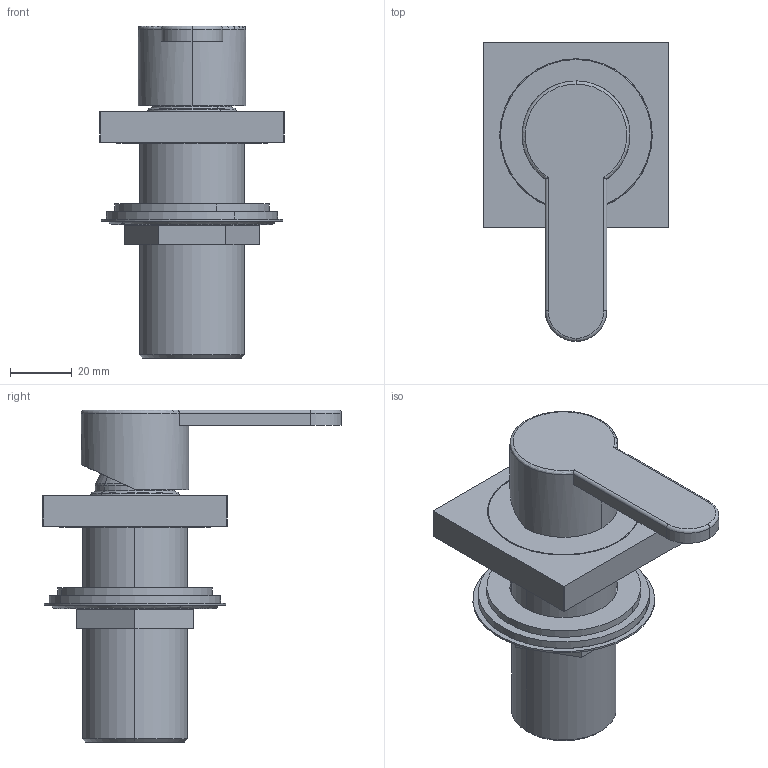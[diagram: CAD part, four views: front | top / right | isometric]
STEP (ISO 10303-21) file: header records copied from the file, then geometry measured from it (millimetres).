
FILE_DESCRIPTION (( 'STEP AP203' ), '1' );
FILE_NAME ('MIK25.STEP', '2023-11-15T09:26:53', ( '' ), ( '' ), 'SwSTEP 2.0', 'SolidWorks 2021', '' );
FILE_SCHEMA (( 'CONFIG_CONTROL_DESIGN' ));
Length unit declared in the file: millimetre
Products named in the file (16): EU0120_0; CARTNUB001; OR4569262NBR; MIK25; TAPPHITO01; GRANO M5x6 ACCIAIO; EU0119_2; EU0010_0; C47.00.0023.01; FISSGECO001; EU0855_1; eu01_rondella_gomma_spugna; C24.0105.00.0; eu01_rondella_gomma; eu01_dado_esa_x_codolo; eu01_flangia_sagomata
Assembly tree (13 placements, depth 3):
  EU0120_0
  MIK25
    EU0010_0
    C24.0105.00.0
    OR4569262NBR  x2
    EU0119_2
    CARTNUB001
    FISSGECO001
      eu01_flangia_sagomata
      eu01_rondella_gomma
      eu01_rondella_gomma_spugna
      eu01_dado_esa_x_codolo
    EU0855_1
    C47.00.0023.01
  TAPPHITO01
  GRANO M5x6 ACCIAIO
Bounding box: 60 x 97 x 107.7 mm (x, y, z)
Volume: 96154.6 mm3; surface area: 60472.8 mm2
Topology: 13 solids, 13 shells, 439 faces, 1029 edges, 641 vertices
Faces by surface type: cylinder 165, plane 131, cone 51, bspline 48, torus 44
Entity records: 16708 total; most frequent: CARTESIAN_POINT 5053, DIRECTION 2264, ORIENTED_EDGE 2014, EDGE_CURVE 1007, AXIS2_PLACEMENT_3D 941, VERTEX_POINT 633, CIRCLE 533, EDGE_LOOP 488
